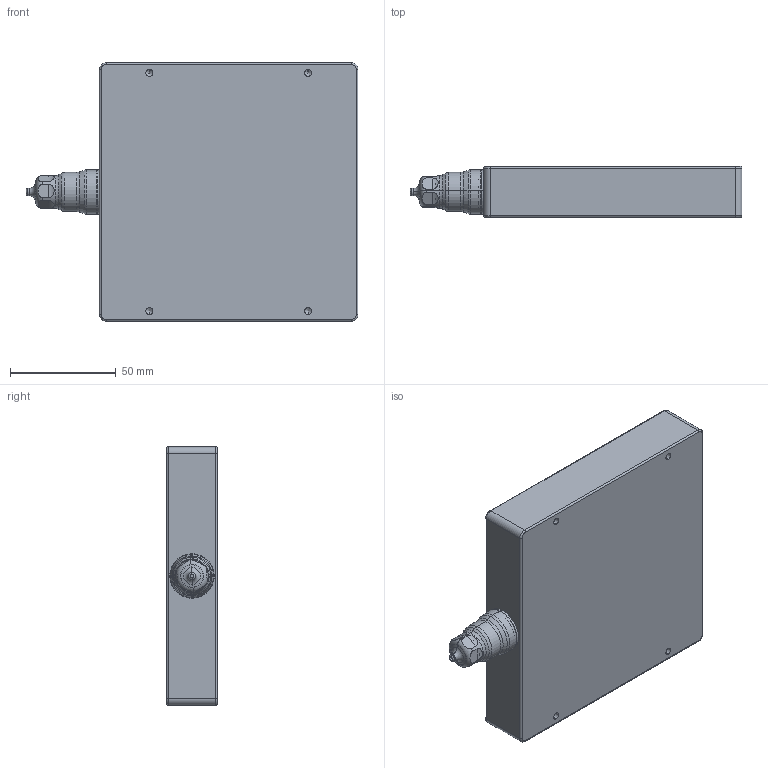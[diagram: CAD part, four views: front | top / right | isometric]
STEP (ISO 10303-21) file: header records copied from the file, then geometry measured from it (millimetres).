
FILE_DESCRIPTION (( 'STEP AP214' ), '1' );
FILE_NAME ('BL245-XXYY_BL245-0404.stp', '2021-07-19T13:01:43', ( '' ), ( '' ), 'SwSTEP 2.0', 'SolidWorks 2018', '' );
FILE_SCHEMA (( 'AUTOMOTIVE_DESIGN' ));
Length unit declared in the file: inch
Products named in the file (12): _HSK_INOX_HD_1_740_1202_50_O_Ring_16; 097505-XXYY_INST-097505-0404; _HSK_INOX_HD_1_740_1202_50_Clamping_insert_12; _HSK_INOX_HD_1_740_1202_50_Diaphragm_seal_4; 097605; _HSK_INOX_HD_1_740_1202_50_Nut_10; _HSK_INOX_HD_1_740_1202_50_Sealing_insert_14; _HSK_INOX_HD_1_740_1202_50_Seal_8; _HSK_INOX_HD_1_740_1202_50_Cover_bell_6; BL245-XXYY_BL245-0404; _HSK_INOX_HD_1_740_1202_50_Gland_2; 097599-XXYY_INST-097599-0404
Assembly tree (11 placements, depth 3):
  BL245-XXYY_BL245-0404
    097505-XXYY_INST-097505-0404
    097599-XXYY_INST-097599-0404
    097605
      _HSK_INOX_HD_1_740_1202_50_Gland_2
      _HSK_INOX_HD_1_740_1202_50_Diaphragm_seal_4
      _HSK_INOX_HD_1_740_1202_50_Cover_bell_6
      _HSK_INOX_HD_1_740_1202_50_Seal_8
      _HSK_INOX_HD_1_740_1202_50_Nut_10
      _HSK_INOX_HD_1_740_1202_50_Clamping_insert_12
      _HSK_INOX_HD_1_740_1202_50_Sealing_insert_14
      _HSK_INOX_HD_1_740_1202_50_O_Ring_16
Bounding box: 156.87 x 24 x 122.17 mm (x, y, z)
Volume: 173348.3 mm3; surface area: 86341.7 mm2
Topology: 10 solids, 14 shells, 645 faces, 1618 edges, 1032 vertices
Faces by surface type: plane 371, cylinder 174, cone 60, torus 40
Entity records: 28026 total; most frequent: CARTESIAN_POINT 4414, DIRECTION 3440, ORIENTED_EDGE 3216, EDGE_CURVE 1608, AXIS2_PLACEMENT_3D 1284, VERTEX_POINT 1032, VECTOR 872, LINE 872
